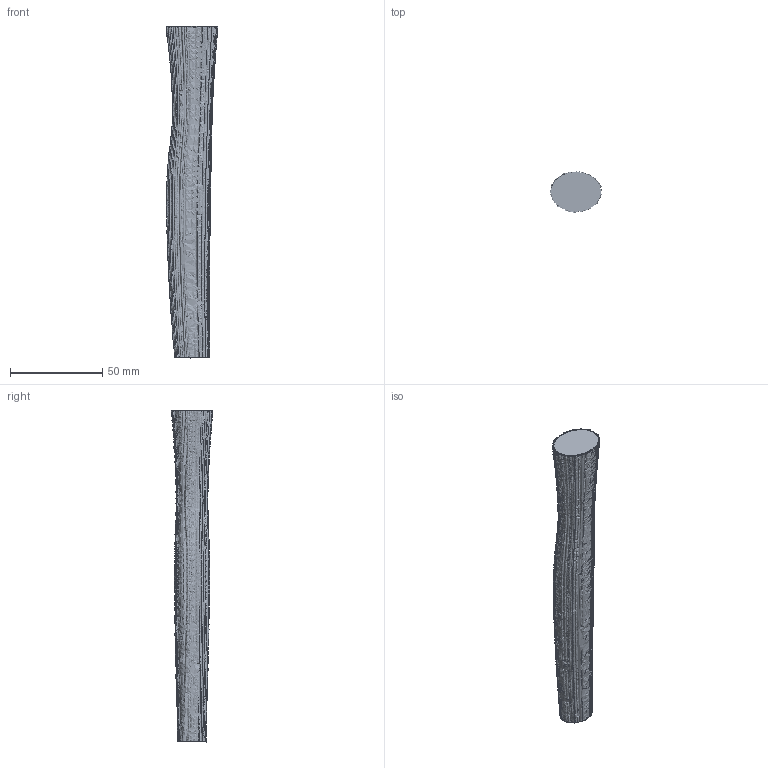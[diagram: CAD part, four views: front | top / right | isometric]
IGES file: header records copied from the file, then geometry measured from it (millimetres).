
Global section: file name: D:\3_IDENTIDAD CORPORATIVA\19 - ARCHIVOS DWG - IGS - DXF\GEA\GE03_3D.igs; native system: Rhinoceros ( Apr  1 2010 ); preprocessor: Trout Lake IGES 012 Apr  1 2010; date: 110802.073250; units: millimetre
Bounding box: 27.92 x 22.44 x 180.06 mm (x, y, z)
Surface area: 15654.5 mm2 (no closed solid volume)
Topology: 0 solids, 0 shells, 5 faces, 95 edges, 93 vertices
Faces by surface type: bspline 5
